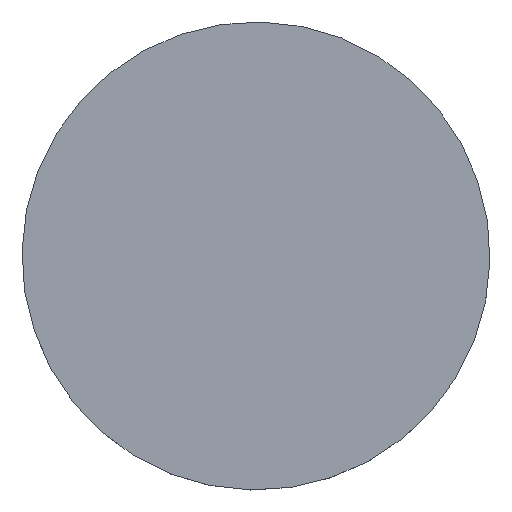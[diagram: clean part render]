
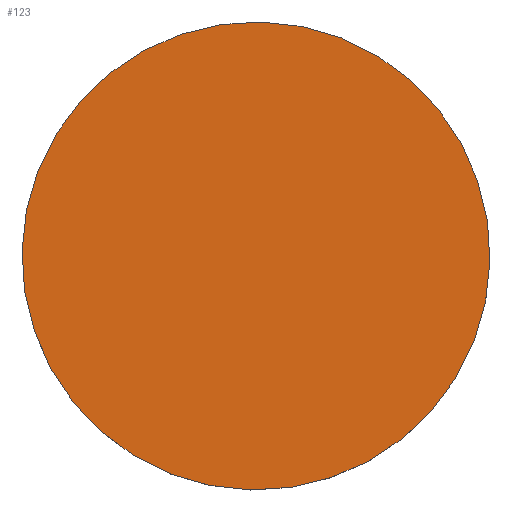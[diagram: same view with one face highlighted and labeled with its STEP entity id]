
A CAD part, top view. The second image highlights one B-rep face of the part: STEP entity #123.
In plain terms, the highlighted planar face has unit normal (0, 0, 1).
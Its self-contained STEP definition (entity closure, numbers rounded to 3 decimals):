
#63=CARTESIAN_POINT('Vertex',(-17.379,31.812,7.)) ;
#66=CARTESIAN_POINT('Axis2P3D Location',(0.,0.,7.)) ;
#70=CARTESIAN_POINT('Vertex',(17.379,-31.812,7.)) ;
#97=CARTESIAN_POINT('Axis2P3D Location',(0.,0.,7.)) ;
#114=CARTESIAN_POINT('Axis2P3D Location',(0.,36.25,7.)) ;
#67=DIRECTION('Axis2P3D Direction',(0.,0.,1.)) ;
#98=DIRECTION('Axis2P3D Direction',(0.,0.,1.)) ;
#115=DIRECTION('Axis2P3D Direction',(0.,0.,1.)) ;
#116=DIRECTION('Axis2P3D XDirection',(1.,0.,0.)) ;
#68=AXIS2_PLACEMENT_3D('Circle Axis2P3D',#66,#67,$) ;
#99=AXIS2_PLACEMENT_3D('Circle Axis2P3D',#97,#98,$) ;
#117=AXIS2_PLACEMENT_3D('Plane Axis2P3D',#114,#115,#116) ;
#120=ORIENTED_EDGE('',*,*,#101,.T.) ;
#121=ORIENTED_EDGE('',*,*,#72,.T.) ;
#123=ADVANCED_FACE('PartBody',(#122),#118,.T.) ;
#69=CIRCLE('generated circle',#68,36.25) ;
#100=CIRCLE('generated circle',#99,36.25) ;
#72=EDGE_CURVE('',#71,#64,#69,.T.) ;
#101=EDGE_CURVE('',#64,#71,#100,.T.) ;
#119=EDGE_LOOP('',(#120,#121)) ;
#122=FACE_OUTER_BOUND('',#119,.T.) ;
#118=PLANE('',#117) ;
#64=VERTEX_POINT('',#63) ;
#71=VERTEX_POINT('',#70) ;
